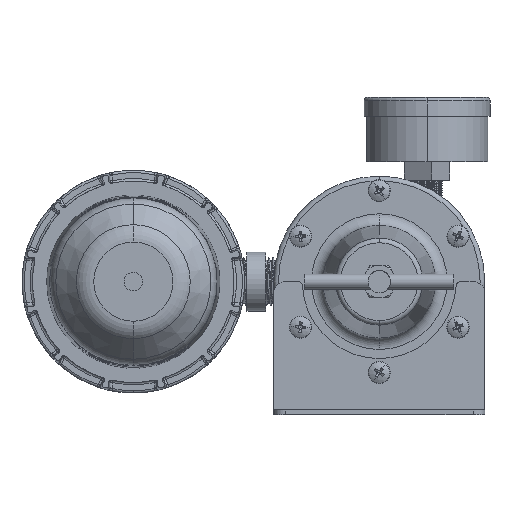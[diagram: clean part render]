
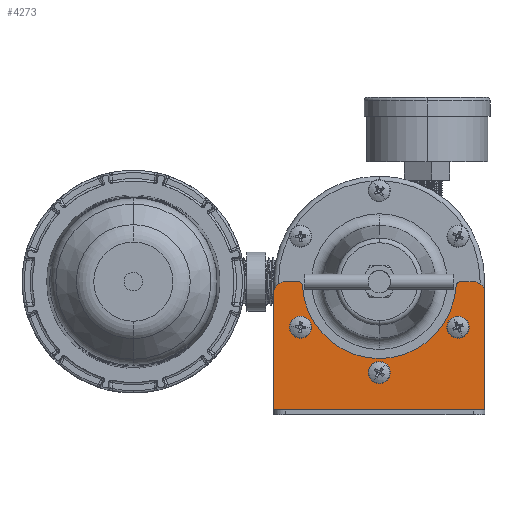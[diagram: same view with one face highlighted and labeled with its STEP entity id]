
A CAD part, front view. The second image highlights one B-rep face of the part: STEP entity #4273.
In plain terms, the highlighted planar face has unit normal (0, -1, 0) as drawn and (0, 1, 0) by its records, which use the part's own axes.
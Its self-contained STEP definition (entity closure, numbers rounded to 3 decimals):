
#100 = EDGE_CURVE ( 'NONE', #8102, #44830, #42324, .T. ) ;
#364 = AXIS2_PLACEMENT_3D ( 'NONE', #17156, #38695, #41755 ) ;
#773 = CARTESIAN_POINT ( 'NONE',  ( -45.25, 2., 0. ) ) ;
#1657 = VERTEX_POINT ( 'NONE', #18705 ) ;
#2432 = DIRECTION ( 'NONE',  ( 0., 1., 0. ) ) ;
#2459 = CIRCLE ( 'NONE', #34373, 5. ) ;
#2464 = DIRECTION ( 'NONE',  ( 1., 0., 0. ) ) ;
#3343 = EDGE_CURVE ( 'NONE', #24818, #12910, #34396, .T. ) ;
#3358 = CARTESIAN_POINT ( 'NONE',  ( -32.946, 2., 55.114 ) ) ;
#3665 = ORIENTED_EDGE ( 'NONE', *, *, #35405, .T. ) ;
#4045 = CARTESIAN_POINT ( 'NONE',  ( 0., 2., 21.4 ) ) ;
#4197 = DIRECTION ( 'NONE',  ( 0., 0., 1. ) ) ;
#4273 = ADVANCED_FACE ( 'NONE', ( #15530, #41020, #18784, #6102 ), #9106, .T. ) ;
#4535 = VERTEX_POINT ( 'NONE', #3358 ) ;
#4581 = VECTOR ( 'NONE', #33350, 1000. ) ;
#5234 = DIRECTION ( 'NONE',  ( 0., 0., 1. ) ) ;
#5673 = ORIENTED_EDGE ( 'NONE', *, *, #31966, .F. ) ;
#5843 = DIRECTION ( 'NONE',  ( 0., 0., 1. ) ) ;
#6102 = FACE_OUTER_BOUND ( 'NONE', #28984, .T. ) ;
#6195 = CARTESIAN_POINT ( 'NONE',  ( 0., 2., 2. ) ) ;
#6275 = ORIENTED_EDGE ( 'NONE', *, *, #3343, .F. ) ;
#6650 = VERTEX_POINT ( 'NONE', #26865 ) ;
#7274 = CARTESIAN_POINT ( 'NONE',  ( 0., 2., 18. ) ) ;
#7380 = CIRCLE ( 'NONE', #10797, 3.4 ) ;
#7851 = VECTOR ( 'NONE', #25611, 1000. ) ;
#7920 = CARTESIAN_POINT ( 'NONE',  ( 0., 2., 57. ) ) ;
#8102 = VERTEX_POINT ( 'NONE', #15788 ) ;
#8799 = CARTESIAN_POINT ( 'NONE',  ( 0., 2., 0. ) ) ;
#9106 = PLANE ( 'NONE',  #9593 ) ;
#9508 = DIRECTION ( 'NONE',  ( 0., 1., 0. ) ) ;
#9593 = AXIS2_PLACEMENT_3D ( 'NONE', #8799, #19794, #5234 ) ;
#10797 = AXIS2_PLACEMENT_3D ( 'NONE', #45686, #35631, #31628 ) ;
#10855 = DIRECTION ( 'NONE',  ( 0., 0., 1. ) ) ;
#11078 = CIRCLE ( 'NONE', #24299, 3.4 ) ;
#11347 = CIRCLE ( 'NONE', #27083, 3.4 ) ;
#11915 = CIRCLE ( 'NONE', #45461, 3.4 ) ;
#12165 = CIRCLE ( 'NONE', #15073, 33. ) ;
#12910 = VERTEX_POINT ( 'NONE', #45060 ) ;
#13318 = DIRECTION ( 'NONE',  ( 1., 0., 0. ) ) ;
#13945 = VERTEX_POINT ( 'NONE', #19476 ) ;
#14006 = EDGE_CURVE ( 'NONE', #44830, #21970, #37485, .T. ) ;
#14896 = VECTOR ( 'NONE', #13318, 1000. ) ;
#15073 = AXIS2_PLACEMENT_3D ( 'NONE', #7920, #29344, #21868 ) ;
#15530 = FACE_BOUND ( 'NONE', #29988, .T. ) ;
#15654 = VERTEX_POINT ( 'NONE', #29741 ) ;
#15788 = CARTESIAN_POINT ( 'NONE',  ( 34.943, 2., 57. ) ) ;
#16156 = LINE ( 'NONE', #773, #7851 ) ;
#17156 = CARTESIAN_POINT ( 'NONE',  ( 33.775, 2., 37.5 ) ) ;
#17383 = CARTESIAN_POINT ( 'NONE',  ( -33.775, 2., 34.1 ) ) ;
#17448 = ORIENTED_EDGE ( 'NONE', *, *, #25517, .T. ) ;
#17789 = DIRECTION ( 'NONE',  ( 0., 1., 0. ) ) ;
#18294 = ORIENTED_EDGE ( 'NONE', *, *, #24103, .T. ) ;
#18705 = CARTESIAN_POINT ( 'NONE',  ( -45.25, 2., 2. ) ) ;
#18740 = CARTESIAN_POINT ( 'NONE',  ( -45.25, 2., 57. ) ) ;
#18780 = VECTOR ( 'NONE', #35680, 1000. ) ;
#18784 = FACE_BOUND ( 'NONE', #23239, .T. ) ;
#18955 = EDGE_CURVE ( 'NONE', #1657, #19534, #16156, .T. ) ;
#19476 = CARTESIAN_POINT ( 'NONE',  ( 0., 2., 14.6 ) ) ;
#19534 = VERTEX_POINT ( 'NONE', #44972 ) ;
#19794 = DIRECTION ( 'NONE',  ( 0., 1., 0. ) ) ;
#20796 = CARTESIAN_POINT ( 'NONE',  ( -33.775, 2., 37.5 ) ) ;
#20841 = CARTESIAN_POINT ( 'NONE',  ( 33.775, 2., 34.1 ) ) ;
#21059 = DIRECTION ( 'NONE',  ( 0., 1., 0. ) ) ;
#21193 = EDGE_CURVE ( 'NONE', #13945, #26369, #11078, .T. ) ;
#21547 = CIRCLE ( 'NONE', #40908, 2. ) ;
#21868 = DIRECTION ( 'NONE',  ( 0., 0., 1. ) ) ;
#21970 = VERTEX_POINT ( 'NONE', #29920 ) ;
#23239 = EDGE_LOOP ( 'NONE', ( #5673, #26304 ) ) ;
#23338 = DIRECTION ( 'NONE',  ( 0., 0., 1. ) ) ;
#23725 = EDGE_CURVE ( 'NONE', #42421, #4535, #12165, .T. ) ;
#24103 = EDGE_CURVE ( 'NONE', #30399, #4535, #21547, .T. ) ;
#24299 = AXIS2_PLACEMENT_3D ( 'NONE', #38761, #24721, #36294 ) ;
#24721 = DIRECTION ( 'NONE',  ( 0., 1., 0. ) ) ;
#24818 = VERTEX_POINT ( 'NONE', #20841 ) ;
#24961 = CARTESIAN_POINT ( 'NONE',  ( 40.25, 2., 57. ) ) ;
#25517 = EDGE_CURVE ( 'NONE', #21970, #15654, #36559, .T. ) ;
#25611 = DIRECTION ( 'NONE',  ( 0., 0., 1. ) ) ;
#25906 = ORIENTED_EDGE ( 'NONE', *, *, #14006, .T. ) ;
#26218 = ORIENTED_EDGE ( 'NONE', *, *, #43657, .F. ) ;
#26304 = ORIENTED_EDGE ( 'NONE', *, *, #30389, .F. ) ;
#26369 = VERTEX_POINT ( 'NONE', #4045 ) ;
#26865 = CARTESIAN_POINT ( 'NONE',  ( -33.775, 2., 40.9 ) ) ;
#27037 = DIRECTION ( 'NONE',  ( 0., 1., 0. ) ) ;
#27083 = AXIS2_PLACEMENT_3D ( 'NONE', #29380, #42824, #4197 ) ;
#27786 = CARTESIAN_POINT ( 'NONE',  ( 32.946, 2., 55.114 ) ) ;
#27969 = DIRECTION ( 'NONE',  ( 0., 1., 0. ) ) ;
#28219 = CARTESIAN_POINT ( 'NONE',  ( -34.943, 2., 55. ) ) ;
#28264 = CIRCLE ( 'NONE', #44037, 3.4 ) ;
#28984 = EDGE_LOOP ( 'NONE', ( #38337, #25906, #17448, #26218, #43174, #3665, #35051, #18294, #44071, #43623 ) ) ;
#29344 = DIRECTION ( 'NONE',  ( 0., 1., 0. ) ) ;
#29380 = CARTESIAN_POINT ( 'NONE',  ( 33.775, 2., 37.5 ) ) ;
#29741 = CARTESIAN_POINT ( 'NONE',  ( 45.25, 2., 2. ) ) ;
#29920 = CARTESIAN_POINT ( 'NONE',  ( 45.25, 2., 52. ) ) ;
#29988 = EDGE_LOOP ( 'NONE', ( #39317, #6275 ) ) ;
#30068 = EDGE_CURVE ( 'NONE', #12910, #24818, #11347, .T. ) ;
#30102 = VERTEX_POINT ( 'NONE', #40014 ) ;
#30389 = EDGE_CURVE ( 'NONE', #43466, #6650, #11915, .T. ) ;
#30399 = VERTEX_POINT ( 'NONE', #32290 ) ;
#30794 = CARTESIAN_POINT ( 'NONE',  ( -40.25, 2., 52. ) ) ;
#30942 = CARTESIAN_POINT ( 'NONE',  ( 34.943, 2., 55. ) ) ;
#31624 = ORIENTED_EDGE ( 'NONE', *, *, #42385, .F. ) ;
#31628 = DIRECTION ( 'NONE',  ( 0., 0., 1. ) ) ;
#31735 = AXIS2_PLACEMENT_3D ( 'NONE', #30942, #9508, #23338 ) ;
#31966 = EDGE_CURVE ( 'NONE', #6650, #43466, #7380, .T. ) ;
#32173 = AXIS2_PLACEMENT_3D ( 'NONE', #37949, #2432, #5843 ) ;
#32290 = CARTESIAN_POINT ( 'NONE',  ( -34.943, 2., 57. ) ) ;
#33350 = DIRECTION ( 'NONE',  ( 1., 0., 0. ) ) ;
#33454 = VECTOR ( 'NONE', #2464, 1000. ) ;
#34328 = DIRECTION ( 'NONE',  ( 0., 0., 1. ) ) ;
#34373 = AXIS2_PLACEMENT_3D ( 'NONE', #30794, #27037, #34328 ) ;
#34396 = CIRCLE ( 'NONE', #364, 3.4 ) ;
#35051 = ORIENTED_EDGE ( 'NONE', *, *, #37712, .T. ) ;
#35356 = CARTESIAN_POINT ( 'NONE',  ( 45.25, 2., 0. ) ) ;
#35400 = EDGE_CURVE ( 'NONE', #42421, #8102, #42400, .T. ) ;
#35405 = EDGE_CURVE ( 'NONE', #19534, #30102, #2459, .T. ) ;
#35631 = DIRECTION ( 'NONE',  ( 0., 1., 0. ) ) ;
#35680 = DIRECTION ( 'NONE',  ( 0., 0., -1. ) ) ;
#35983 = ORIENTED_EDGE ( 'NONE', *, *, #21193, .F. ) ;
#36294 = DIRECTION ( 'NONE',  ( 0., 0., 1. ) ) ;
#36559 = LINE ( 'NONE', #35356, #18780 ) ;
#36776 = LINE ( 'NONE', #41510, #33454 ) ;
#37485 = CIRCLE ( 'NONE', #32173, 5. ) ;
#37712 = EDGE_CURVE ( 'NONE', #30102, #30399, #36776, .T. ) ;
#37949 = CARTESIAN_POINT ( 'NONE',  ( 40.25, 2., 52. ) ) ;
#38337 = ORIENTED_EDGE ( 'NONE', *, *, #100, .T. ) ;
#38560 = DIRECTION ( 'NONE',  ( 0., 0., 1. ) ) ;
#38695 = DIRECTION ( 'NONE',  ( 0., 1., 0. ) ) ;
#38761 = CARTESIAN_POINT ( 'NONE',  ( 0., 2., 18. ) ) ;
#39317 = ORIENTED_EDGE ( 'NONE', *, *, #30068, .F. ) ;
#39846 = LINE ( 'NONE', #6195, #14896 ) ;
#40014 = CARTESIAN_POINT ( 'NONE',  ( -40.25, 2., 57. ) ) ;
#40908 = AXIS2_PLACEMENT_3D ( 'NONE', #28219, #21059, #38560 ) ;
#41020 = FACE_BOUND ( 'NONE', #44690, .T. ) ;
#41510 = CARTESIAN_POINT ( 'NONE',  ( -45.25, 2., 57. ) ) ;
#41755 = DIRECTION ( 'NONE',  ( 0., 0., 1. ) ) ;
#42324 = LINE ( 'NONE', #18740, #4581 ) ;
#42385 = EDGE_CURVE ( 'NONE', #26369, #13945, #28264, .T. ) ;
#42400 = CIRCLE ( 'NONE', #31735, 2. ) ;
#42421 = VERTEX_POINT ( 'NONE', #27786 ) ;
#42482 = DIRECTION ( 'NONE',  ( 0., 0., 1. ) ) ;
#42824 = DIRECTION ( 'NONE',  ( 0., 1., 0. ) ) ;
#43174 = ORIENTED_EDGE ( 'NONE', *, *, #18955, .T. ) ;
#43466 = VERTEX_POINT ( 'NONE', #17383 ) ;
#43623 = ORIENTED_EDGE ( 'NONE', *, *, #35400, .T. ) ;
#43657 = EDGE_CURVE ( 'NONE', #1657, #15654, #39846, .T. ) ;
#44037 = AXIS2_PLACEMENT_3D ( 'NONE', #7274, #17789, #10855 ) ;
#44071 = ORIENTED_EDGE ( 'NONE', *, *, #23725, .F. ) ;
#44690 = EDGE_LOOP ( 'NONE', ( #31624, #35983 ) ) ;
#44830 = VERTEX_POINT ( 'NONE', #24961 ) ;
#44972 = CARTESIAN_POINT ( 'NONE',  ( -45.25, 2., 52. ) ) ;
#45060 = CARTESIAN_POINT ( 'NONE',  ( 33.775, 2., 40.9 ) ) ;
#45461 = AXIS2_PLACEMENT_3D ( 'NONE', #20796, #27969, #42482 ) ;
#45686 = CARTESIAN_POINT ( 'NONE',  ( -33.775, 2., 37.5 ) ) ;
